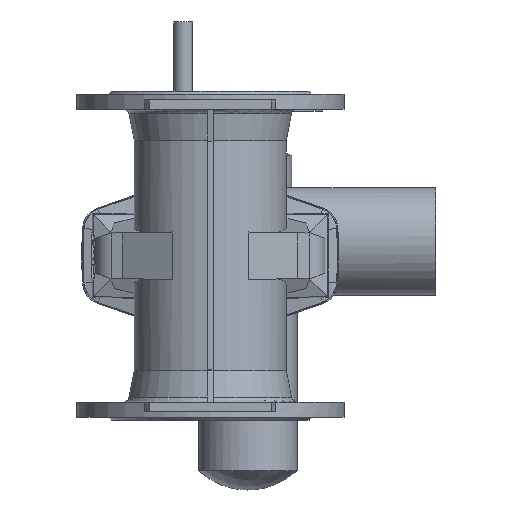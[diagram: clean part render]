
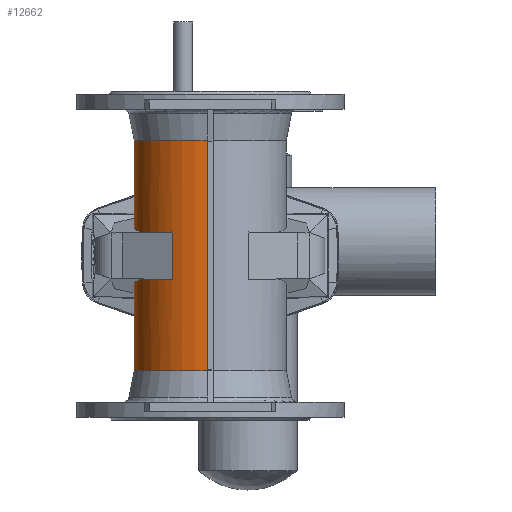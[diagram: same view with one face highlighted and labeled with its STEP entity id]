
A CAD part, front view. The second image highlights one B-rep face of the part: STEP entity #12662.
In plain terms, the highlighted cylindrical face has radius 81 mm (diameter 162 mm), a partial arc.
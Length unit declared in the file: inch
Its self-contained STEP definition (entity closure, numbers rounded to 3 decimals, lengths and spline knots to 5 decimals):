
#991 = CIRCLE ( 'NONE', #3087, 3.18898 ) ;
#997 = LINE ( 'NONE', #11293, #998 ) ;
#998 = VECTOR ( 'NONE', #11294, 39.37008 ) ;
#999 = CIRCLE ( 'NONE', #3086, 3.18898 ) ;
#1000 = LINE ( 'NONE', #11270, #1002 ) ;
#1001 = LINE ( 'NONE', #11301, #1003 ) ;
#1002 = VECTOR ( 'NONE', #11284, 39.37008 ) ;
#1003 = VECTOR ( 'NONE', #11305, 39.37008 ) ;
#1445 = FACE_OUTER_BOUND ( 'NONE', #4606, .T. ) ;
#1451 = CYLINDRICAL_SURFACE ( 'NONE', #3324, 3.18898 ) ;
#1872 = CARTESIAN_POINT ( 'NONE',  ( -0.11811, -3.18679, 4.81428 ) ) ;
#1873 = CARTESIAN_POINT ( 'NONE',  ( -0.11811, 3.18679, -4.81428 ) ) ;
#1879 = CARTESIAN_POINT ( 'NONE',  ( -0.11811, -3.18679, -4.81428 ) ) ;
#1911 = CARTESIAN_POINT ( 'NONE',  ( -0.11811, 3.18679, -1.67688 ) ) ;
#1957 = CARTESIAN_POINT ( 'NONE',  ( -1.59449, -2.76173, -0.99579 ) ) ;
#1964 = CARTESIAN_POINT ( 'NONE',  ( -0.11811, 3.18679, 1.67688 ) ) ;
#2068 = CARTESIAN_POINT ( 'NONE',  ( -2.82852, -1.47278, 0.97425 ) ) ;
#2073 = CARTESIAN_POINT ( 'NONE',  ( -2.82852, -1.47278, -0.97425 ) ) ;
#2075 = CARTESIAN_POINT ( 'NONE',  ( -1.59449, -2.76173, 0.99579 ) ) ;
#2155 = CARTESIAN_POINT ( 'NONE',  ( -0.11811, 3.18679, 4.81428 ) ) ;
#3086 = AXIS2_PLACEMENT_3D ( 'NONE', #11297, #11298, #11299 ) ;
#3087 = AXIS2_PLACEMENT_3D ( 'NONE', #11311, #11312, #11313 ) ;
#3324 = AXIS2_PLACEMENT_3D ( 'NONE', #3668, #3667, #3660 ) ;
#3660 = DIRECTION ( 'NONE',  ( 1., 0., 0. ) ) ;
#3667 = DIRECTION ( 'NONE',  ( 0., 0., 1. ) ) ;
#3668 = CARTESIAN_POINT ( 'NONE',  ( 0., 0., 0. ) ) ;
#4606 = EDGE_LOOP ( 'NONE', ( #6006, #6007, #6008, #6009, #6010, #6011, #6012, #6013, #6014, #6015 ) ) ;
#4932 = CARTESIAN_POINT ( 'NONE',  ( -2.72176, 3.09029, -1.61743 ) ) ;
#4936 = CARTESIAN_POINT ( 'NONE',  ( -4.03179, 0.83816, -1.27782 ) ) ;
#4946 = CARTESIAN_POINT ( 'NONE',  ( -2.5463, -2.01479, -0.97918 ) ) ;
#4947 = CARTESIAN_POINT ( 'NONE',  ( -0.11811, 3.18679, -1.67688 ) ) ;
#4950 = CARTESIAN_POINT ( 'NONE',  ( -2.82852, -1.47278, -0.97425 ) ) ;
#4955 = CARTESIAN_POINT ( 'NONE',  ( -1.59449, -2.76173, 6.88976 ) ) ;
#4956 = CARTESIAN_POINT ( 'NONE',  ( -2.82852, -1.47278, -0.97425 ) ) ;
#4958 = DIRECTION ( 'NONE',  ( 0., 0., -1. ) ) ;
#4960 = CARTESIAN_POINT ( 'NONE',  ( -2.1237, -2.45619, -0.98655 ) ) ;
#4962 = CARTESIAN_POINT ( 'NONE',  ( -1.59449, -2.76173, -0.99579 ) ) ;
#6006 = ORIENTED_EDGE ( 'NONE', *, *, #8488, .T. ) ;
#6007 = ORIENTED_EDGE ( 'NONE', *, *, #8487, .F. ) ;
#6008 = ORIENTED_EDGE ( 'NONE', *, *, #8486, .F. ) ;
#6009 = ORIENTED_EDGE ( 'NONE', *, *, #9613, .T. ) ;
#6010 = ORIENTED_EDGE ( 'NONE', *, *, #9615, .T. ) ;
#6011 = ORIENTED_EDGE ( 'NONE', *, *, #9609, .T. ) ;
#6012 = ORIENTED_EDGE ( 'NONE', *, *, #9610, .F. ) ;
#6013 = ORIENTED_EDGE ( 'NONE', *, *, #9611, .F. ) ;
#6014 = ORIENTED_EDGE ( 'NONE', *, *, #9614, .T. ) ;
#6015 = ORIENTED_EDGE ( 'NONE', *, *, #9608, .T. ) ;
#8486 = EDGE_CURVE ( 'NONE', #11900, #12062, #11719, .T. ) ;
#8487 = EDGE_CURVE ( 'NONE', #12062, #11946, #11720, .T. ) ;
#8488 = EDGE_CURVE ( 'NONE', #12064, #11946, #11000, .T. ) ;
#9608 = EDGE_CURVE ( 'NONE', #12057, #12064, #11841, .T. ) ;
#9609 = EDGE_CURVE ( 'NONE', #11867, #11857, #997, .T. ) ;
#9610 = EDGE_CURVE ( 'NONE', #12144, #11857, #999, .T. ) ;
#9611 = EDGE_CURVE ( 'NONE', #11953, #12144, #1000, .T. ) ;
#9613 = EDGE_CURVE ( 'NONE', #11900, #11858, #1001, .T. ) ;
#9614 = EDGE_CURVE ( 'NONE', #11953, #12057, #11843, .T. ) ;
#9615 = EDGE_CURVE ( 'NONE', #11858, #11867, #991, .T. ) ;
#11000 = LINE ( 'NONE', #4955, #11001 ) ;
#11001 = VECTOR ( 'NONE', #4958, 39.37008 ) ;
#11270 = CARTESIAN_POINT ( 'NONE',  ( -0.11811, 3.18679, 0. ) ) ;
#11275 = CARTESIAN_POINT ( 'NONE',  ( -2.1237, -2.45619, 0.98655 ) ) ;
#11284 = DIRECTION ( 'NONE',  ( 0., 0., 1. ) ) ;
#11290 = CARTESIAN_POINT ( 'NONE',  ( -2.5463, -2.01479, 0.97918 ) ) ;
#11291 = CARTESIAN_POINT ( 'NONE',  ( -2.82852, -1.47278, 0.97425 ) ) ;
#11292 = CARTESIAN_POINT ( 'NONE',  ( -1.59449, -2.76173, 0.99579 ) ) ;
#11293 = CARTESIAN_POINT ( 'NONE',  ( -0.11811, -3.18679, 0. ) ) ;
#11294 = DIRECTION ( 'NONE',  ( 0., 0., 1. ) ) ;
#11297 = CARTESIAN_POINT ( 'NONE',  ( 0., 0., 4.81428 ) ) ;
#11298 = DIRECTION ( 'NONE',  ( 0., 0., 1. ) ) ;
#11299 = DIRECTION ( 'NONE',  ( 1., 0., 0. ) ) ;
#11300 = CARTESIAN_POINT ( 'NONE',  ( -0.11811, 3.18679, 1.67688 ) ) ;
#11301 = CARTESIAN_POINT ( 'NONE',  ( -0.11811, 3.18679, 0. ) ) ;
#11302 = CARTESIAN_POINT ( 'NONE',  ( -2.72176, 3.09029, 1.61743 ) ) ;
#11305 = DIRECTION ( 'NONE',  ( 0., 0., -1. ) ) ;
#11308 = CARTESIAN_POINT ( 'NONE',  ( -4.03179, 0.83816, 1.27782 ) ) ;
#11309 = CARTESIAN_POINT ( 'NONE',  ( -2.82852, -1.47278, 0.97425 ) ) ;
#11311 = CARTESIAN_POINT ( 'NONE',  ( 0., 0., -4.81428 ) ) ;
#11312 = DIRECTION ( 'NONE',  ( 0., 0., 1. ) ) ;
#11313 = DIRECTION ( 'NONE',  ( 1., 0., 0. ) ) ;
#11719 =( BOUNDED_CURVE ( )  B_SPLINE_CURVE ( 3, ( #4947, #4932, #4936, #4950 ),
 .UNSPECIFIED., .F., .T. ) 
 B_SPLINE_CURVE_WITH_KNOTS ( ( 4, 4 ),
 ( 0.16181, 2.17563 ),
 .UNSPECIFIED. ) 
 CURVE ( )  GEOMETRIC_REPRESENTATION_ITEM ( )  RATIONAL_B_SPLINE_CURVE ( ( 1., 0.69, 0.69, 1. ) ) 
 REPRESENTATION_ITEM ( '' )  );
#11720 =( BOUNDED_CURVE ( )  B_SPLINE_CURVE ( 3, ( #4956, #4946, #4960, #4962 ),
 .UNSPECIFIED., .F., .T. ) 
 B_SPLINE_CURVE_WITH_KNOTS ( ( 4, 4 ),
 ( 3.62165, 4.18879 ),
 .UNSPECIFIED. ) 
 CURVE ( )  GEOMETRIC_REPRESENTATION_ITEM ( )  RATIONAL_B_SPLINE_CURVE ( ( 1., 0.973, 0.973, 1. ) ) 
 REPRESENTATION_ITEM ( '' )  );
#11841 =( BOUNDED_CURVE ( )  B_SPLINE_CURVE ( 3, ( #11291, #11290, #11275, #11292 ),
 .UNSPECIFIED., .F., .T. ) 
 B_SPLINE_CURVE_WITH_KNOTS ( ( 4, 4 ),
 ( 3.62165, 4.18879 ),
 .UNSPECIFIED. ) 
 CURVE ( )  GEOMETRIC_REPRESENTATION_ITEM ( )  RATIONAL_B_SPLINE_CURVE ( ( 1., 0.973, 0.973, 1. ) ) 
 REPRESENTATION_ITEM ( '' )  );
#11843 =( BOUNDED_CURVE ( )  B_SPLINE_CURVE ( 3, ( #11300, #11302, #11308, #11309 ),
 .UNSPECIFIED., .F., .T. ) 
 B_SPLINE_CURVE_WITH_KNOTS ( ( 4, 4 ),
 ( 0.16181, 2.17563 ),
 .UNSPECIFIED. ) 
 CURVE ( )  GEOMETRIC_REPRESENTATION_ITEM ( )  RATIONAL_B_SPLINE_CURVE ( ( 1., 0.69, 0.69, 1. ) ) 
 REPRESENTATION_ITEM ( '' )  );
#11857 = VERTEX_POINT ( 'NONE', #1872 ) ;
#11858 = VERTEX_POINT ( 'NONE', #1873 ) ;
#11867 = VERTEX_POINT ( 'NONE', #1879 ) ;
#11900 = VERTEX_POINT ( 'NONE', #1911 ) ;
#11946 = VERTEX_POINT ( 'NONE', #1957 ) ;
#11953 = VERTEX_POINT ( 'NONE', #1964 ) ;
#12057 = VERTEX_POINT ( 'NONE', #2068 ) ;
#12062 = VERTEX_POINT ( 'NONE', #2073 ) ;
#12064 = VERTEX_POINT ( 'NONE', #2075 ) ;
#12144 = VERTEX_POINT ( 'NONE', #2155 ) ;
#12662 = ADVANCED_FACE ( 'NONE', ( #1445 ), #1451, .T. ) ;
